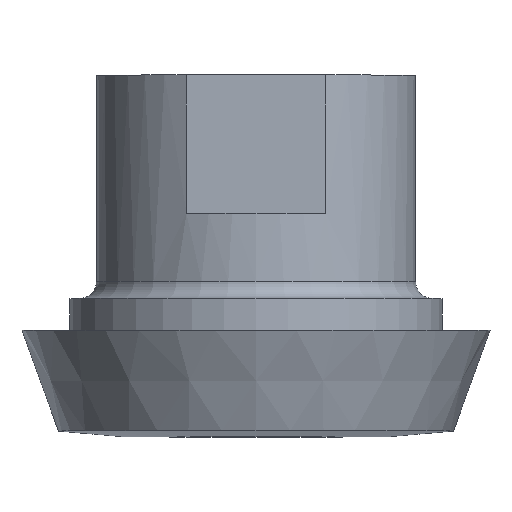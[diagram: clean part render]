
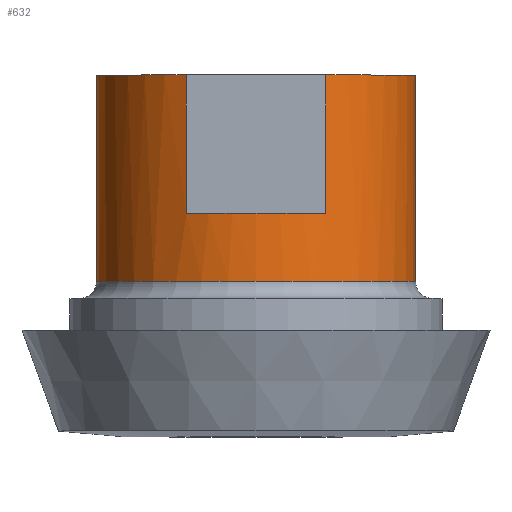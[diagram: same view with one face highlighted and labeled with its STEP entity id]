
A CAD part, top view. The second image highlights one B-rep face of the part: STEP entity #632.
In plain terms, the highlighted cylindrical face has radius 15 mm (diameter 30 mm), a partial arc.
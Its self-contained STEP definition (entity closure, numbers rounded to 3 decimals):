
#108=CARTESIAN_POINT('',(0.,34.,0.));
#109=DIRECTION('',(0.,1.,0.));
#110=DIRECTION('',(0.436,0.,0.9));
#111=AXIS2_PLACEMENT_3D('',#108,#109,#110);
#117=CARTESIAN_POINT('',(0.,34.,0.));
#118=DIRECTION('',(0.,1.,0.));
#119=DIRECTION('',(-1.,0.,0.));
#120=AXIS2_PLACEMENT_3D('',#117,#118,#119);
#151=DIRECTION('',(0.,1.,0.));
#152=VECTOR('',#151,19.4);
#153=CARTESIAN_POINT('',(15.,14.6,0.));
#154=LINE('',#153,#152);
#167=CARTESIAN_POINT('',(0.,21.,0.));
#168=DIRECTION('',(0.,1.,0.));
#169=DIRECTION('',(-0.436,0.,0.9));
#170=AXIS2_PLACEMENT_3D('',#167,#168,#169);
#172=DIRECTION('',(0.,1.,0.));
#173=VECTOR('',#172,13.);
#174=CARTESIAN_POINT('',(6.538,21.,13.5));
#175=LINE('',#174,#173);
#176=CARTESIAN_POINT('',(0.,14.6,0.));
#177=DIRECTION('',(0.,1.,0.));
#178=DIRECTION('',(-1.,0.,0.));
#179=AXIS2_PLACEMENT_3D('',#176,#177,#178);
#181=DIRECTION('',(0.,1.,0.));
#182=VECTOR('',#181,19.4);
#183=CARTESIAN_POINT('',(-15.,14.6,0.));
#184=LINE('',#183,#182);
#185=DIRECTION('',(0.,1.,0.));
#186=VECTOR('',#185,13.);
#187=CARTESIAN_POINT('',(-6.538,21.,13.5));
#188=LINE('',#187,#186);
#340=CARTESIAN_POINT('',(-15.,14.6,0.));
#341=CARTESIAN_POINT('',(15.,14.6,0.));
#342=VERTEX_POINT('',#340);
#343=VERTEX_POINT('',#341);
#344=CARTESIAN_POINT('',(15.,34.,0.));
#345=VERTEX_POINT('',#344);
#346=CARTESIAN_POINT('',(-15.,34.,0.));
#347=VERTEX_POINT('',#346);
#352=CARTESIAN_POINT('',(6.538,34.,13.5));
#353=CARTESIAN_POINT('',(-6.538,34.,13.5));
#354=VERTEX_POINT('',#352);
#355=VERTEX_POINT('',#353);
#360=CARTESIAN_POINT('',(-6.538,21.,13.5));
#361=CARTESIAN_POINT('',(6.538,21.,13.5));
#362=VERTEX_POINT('',#360);
#363=VERTEX_POINT('',#361);
#614=CARTESIAN_POINT('',(0.,13.,0.));
#615=DIRECTION('',(0.,1.,0.));
#616=DIRECTION('',(1.,0.,0.));
#617=AXIS2_PLACEMENT_3D('',#614,#615,#616);
#618=CYLINDRICAL_SURFACE('',#617,15.);
#619=ORIENTED_EDGE('',*,*,#607,.T.);
#621=ORIENTED_EDGE('',*,*,#620,.T.);
#622=ORIENTED_EDGE('',*,*,#541,.T.);
#623=ORIENTED_EDGE('',*,*,#585,.F.);
#625=ORIENTED_EDGE('',*,*,#624,.F.);
#626=ORIENTED_EDGE('',*,*,#581,.T.);
#627=ORIENTED_EDGE('',*,*,#545,.T.);
#629=ORIENTED_EDGE('',*,*,#628,.F.);
#630=EDGE_LOOP('',(#619,#621,#622,#623,#625,#626,#627,#629));
#631=FACE_OUTER_BOUND('',#630,.F.);
#632=ADVANCED_FACE('',(#631),#618,.T.);
#112=CIRCLE('',#111,15.);
#121=CIRCLE('',#120,15.);
#171=CIRCLE('',#170,15.);
#180=CIRCLE('',#179,15.);
#541=EDGE_CURVE('',#354,#345,#112,.T.);
#545=EDGE_CURVE('',#347,#355,#121,.T.);
#581=EDGE_CURVE('',#342,#347,#184,.T.);
#585=EDGE_CURVE('',#343,#345,#154,.T.);
#607=EDGE_CURVE('',#362,#363,#171,.T.);
#620=EDGE_CURVE('',#363,#354,#175,.T.);
#624=EDGE_CURVE('',#342,#343,#180,.T.);
#628=EDGE_CURVE('',#362,#355,#188,.T.);
